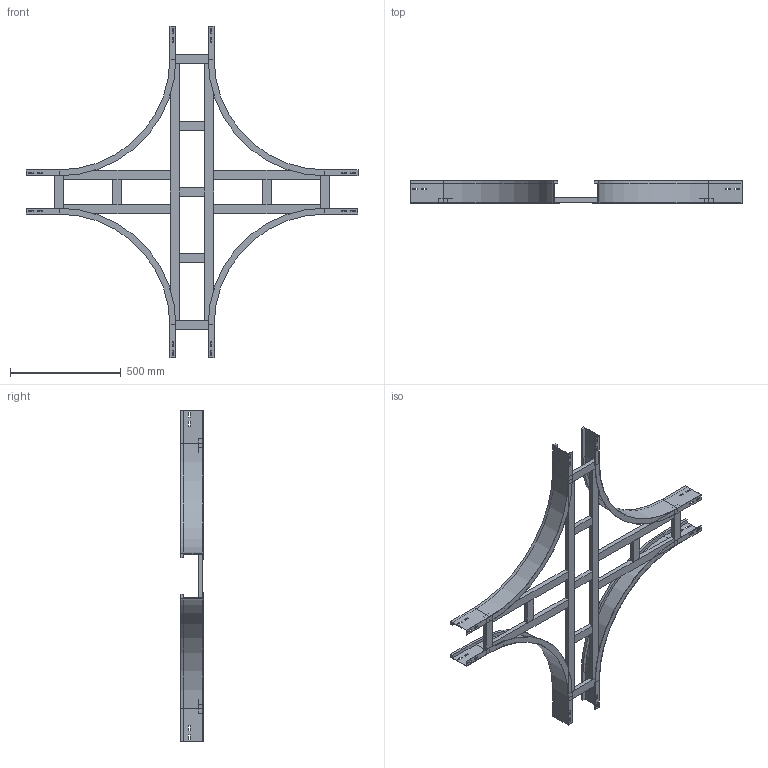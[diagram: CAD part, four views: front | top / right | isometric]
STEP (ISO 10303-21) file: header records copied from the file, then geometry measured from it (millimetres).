
FILE_DESCRIPTION (( 'STEP AP214' ), '1' );
FILE_NAME ('17B5D200.step', '2025-02-21T15:54:09', ( '' ), ( '' ), 'SwSTEP 2.0', 'SolidWorks 2023', '' );
FILE_SCHEMA (( 'AUTOMOTIVE_DESIGN' ));
Length unit declared in the file: millimetre
Products named in the file (7): TRAVERSINO_COPPIA_200; TRAVERSINO_VERT_R500; TRAVERSINO_200; 17B5D200; TRAVERSINO_LONG._R500+200; LONGH.INTERNO 90°_H100_R500; TRAVERSINO_INTERMEDIO_R500+200
Assembly tree (19 placements, depth 2):
  17B5D200
    LONGH.INTERNO 90°_H100_R500  x4
    TRAVERSINO_200  x4
    TRAVERSINO_LONG._R500+200  x2
    TRAVERSINO_INTERMEDIO_R500+200  x3
    TRAVERSINO_VERT_R500  x4
    TRAVERSINO_COPPIA_200  x2
Bounding box: 1500 x 100 x 1500 mm (x, y, z)
Volume: 6467053.6 mm3; surface area: 1950960.7 mm2
Topology: 19 solids, 19 shells, 322 faces, 788 edges, 504 vertices
Faces by surface type: plane 306, cylinder 16
Entity records: 2852 total; most frequent: CARTESIAN_POINT 458, DIRECTION 440, ORIENTED_EDGE 424, EDGE_CURVE 212, VECTOR 204, LINE 204, VERTEX_POINT 136, AXIS2_PLACEMENT_3D 118
